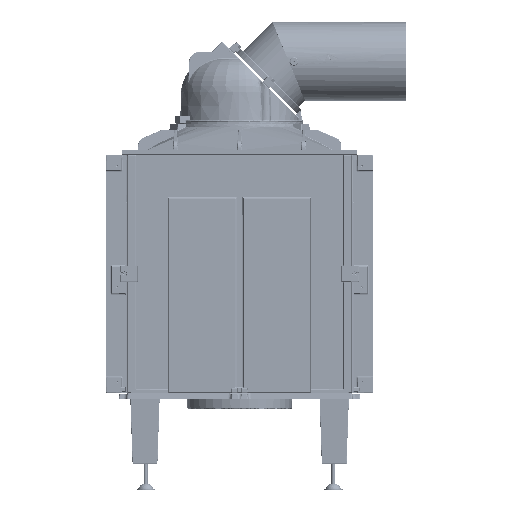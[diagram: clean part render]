
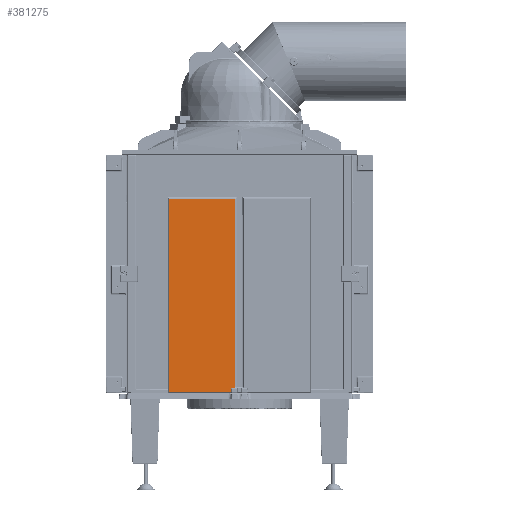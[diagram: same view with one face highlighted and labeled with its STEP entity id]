
A CAD part, front view. The second image highlights one B-rep face of the part: STEP entity #381275.
In plain terms, the highlighted planar face has unit normal (0, -1, 0) as drawn and (0, 0, 1) by its records, which use the part's own axes.
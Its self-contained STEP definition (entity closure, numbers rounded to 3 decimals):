
#23728 = DIRECTION ( 'NONE',  ( -1., 0., 0. ) ) ;
#38145 = CARTESIAN_POINT ( 'NONE',  ( -179.084, 311., 25. ) ) ;
#48927 = DIRECTION ( 'NONE',  ( 1., 0., 0. ) ) ;
#50606 = CARTESIAN_POINT ( 'NONE',  ( -19., -288.884, 25. ) ) ;
#57775 = ORIENTED_EDGE ( 'NONE', *, *, #144987, .T. ) ;
#60608 = EDGE_CURVE ( 'NONE', #396440, #412634, #499404, .T. ) ;
#69220 = EDGE_CURVE ( 'NONE', #130984, #103312, #157782, .T. ) ;
#70526 = DIRECTION ( 'NONE',  ( 1., 0., 0. ) ) ;
#73581 = CARTESIAN_POINT ( 'NONE',  ( -10.916, -288.884, 25. ) ) ;
#77107 = CARTESIAN_POINT ( 'NONE',  ( -179.084, 191.584, 25. ) ) ;
#79361 = EDGE_LOOP ( 'NONE', ( #57775, #477396, #376591, #186741, #234514, #413753, #403307 ) ) ;
#103312 = VERTEX_POINT ( 'NONE', #255710 ) ;
#106317 = EDGE_CURVE ( 'NONE', #348054, #130984, #279575, .T. ) ;
#116436 = CARTESIAN_POINT ( 'NONE',  ( -21., -301.084, 25. ) ) ;
#124604 = VERTEX_POINT ( 'NONE', #73581 ) ;
#127508 = VECTOR ( 'NONE', #258962, 1000. ) ;
#130984 = VERTEX_POINT ( 'NONE', #77107 ) ;
#141896 = CARTESIAN_POINT ( 'NONE',  ( -284.5, 311., 25. ) ) ;
#144987 = EDGE_CURVE ( 'NONE', #124604, #348054, #308200, .T. ) ;
#147828 = EDGE_CURVE ( 'NONE', #396440, #124604, #199438, .T. ) ;
#151958 = CARTESIAN_POINT ( 'NONE',  ( -284.5, -301.084, 25. ) ) ;
#157782 = LINE ( 'NONE', #38145, #364294 ) ;
#169767 = VECTOR ( 'NONE', #23728, 1000. ) ;
#173939 = LINE ( 'NONE', #471830, #270757 ) ;
#178165 = CARTESIAN_POINT ( 'NONE',  ( -19., -288.884, 25. ) ) ;
#183470 = DIRECTION ( 'NONE',  ( -1., 0., 0. ) ) ;
#186741 = ORIENTED_EDGE ( 'NONE', *, *, #426070, .T. ) ;
#199438 = LINE ( 'NONE', #296397, #503050 ) ;
#229984 = CARTESIAN_POINT ( 'NONE',  ( -21., -290.885, 25. ) ) ;
#234514 = ORIENTED_EDGE ( 'NONE', *, *, #514617, .T. ) ;
#255710 = CARTESIAN_POINT ( 'NONE',  ( -179.084, -301.084, 25. ) ) ;
#258962 = DIRECTION ( 'NONE',  ( 0., 1., 0. ) ) ;
#270757 = VECTOR ( 'NONE', #307304, 1000. ) ;
#279575 = LINE ( 'NONE', #518911, #169767 ) ;
#296397 = CARTESIAN_POINT ( 'NONE',  ( -10., -288.884, 25. ) ) ;
#306079 = PLANE ( 'NONE',  #453783 ) ;
#307304 = DIRECTION ( 'NONE',  ( 0., 1., 0. ) ) ;
#308200 = LINE ( 'NONE', #421040, #127508 ) ;
#327116 = DIRECTION ( 'NONE',  ( 0., -1., 0. ) ) ;
#337608 = VERTEX_POINT ( 'NONE', #116436 ) ;
#339542 = CARTESIAN_POINT ( 'NONE',  ( -21., -290.885, 25. ) ) ;
#348054 = VERTEX_POINT ( 'NONE', #526032 ) ;
#364294 = VECTOR ( 'NONE', #327116, 1000. ) ;
#376591 = ORIENTED_EDGE ( 'NONE', *, *, #69220, .T. ) ;
#381275 = ADVANCED_FACE ( 'NONE', ( #416254 ), #306079, .F. ) ;
#396440 = VERTEX_POINT ( 'NONE', #178165 ) ;
#403307 = ORIENTED_EDGE ( 'NONE', *, *, #147828, .T. ) ;
#412634 = VERTEX_POINT ( 'NONE', #229984 ) ;
#413753 = ORIENTED_EDGE ( 'NONE', *, *, #60608, .F. ) ;
#414311 = VECTOR ( 'NONE', #70526, 1000. ) ;
#416254 = FACE_OUTER_BOUND ( 'NONE', #79361, .T. ) ;
#421040 = CARTESIAN_POINT ( 'NONE',  ( -10.916, 311., 25. ) ) ;
#426070 = EDGE_CURVE ( 'NONE', #103312, #337608, #440279, .T. ) ;
#430698 = DIRECTION ( 'NONE',  ( 0., 0., -1. ) ) ;
#440279 = LINE ( 'NONE', #151958, #414311 ) ;
#453783 = AXIS2_PLACEMENT_3D ( 'NONE', #141896, #430698, #183470 ) ;
#462499 = CARTESIAN_POINT ( 'NONE',  ( -20.172, -288.884, 25. ) ) ;
#471830 = CARTESIAN_POINT ( 'NONE',  ( -21., 311., 25. ) ) ;
#477396 = ORIENTED_EDGE ( 'NONE', *, *, #106317, .T. ) ;
#499404 =( BOUNDED_CURVE ( )  B_SPLINE_CURVE ( 3, ( #50606, #462499, #504068, #339542 ),
 .UNSPECIFIED., .F., .T. ) 
 B_SPLINE_CURVE_WITH_KNOTS ( ( 4, 4 ),
 ( 3.142, 4.712 ),
 .UNSPECIFIED. ) 
 CURVE ( )  GEOMETRIC_REPRESENTATION_ITEM ( )  RATIONAL_B_SPLINE_CURVE ( ( 1., 0.805, 0.805, 1. ) ) 
 REPRESENTATION_ITEM ( '' )  );
#503050 = VECTOR ( 'NONE', #48927, 1000. ) ;
#504068 = CARTESIAN_POINT ( 'NONE',  ( -21., -289.712, 25. ) ) ;
#514617 = EDGE_CURVE ( 'NONE', #337608, #412634, #173939, .T. ) ;
#518911 = CARTESIAN_POINT ( 'NONE',  ( -284.5, 191.584, 25. ) ) ;
#526032 = CARTESIAN_POINT ( 'NONE',  ( -10.916, 191.584, 25. ) ) ;
